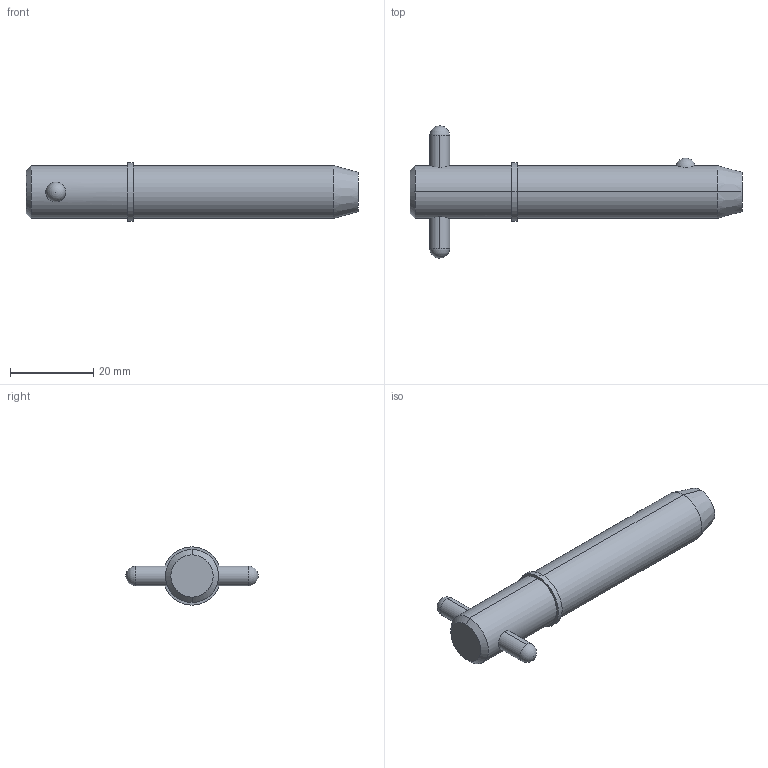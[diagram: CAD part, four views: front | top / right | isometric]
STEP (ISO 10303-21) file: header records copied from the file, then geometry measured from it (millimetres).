
FILE_DESCRIPTION (( 'STEP AP203' ), '1' );
FILE_NAME ('33018.W5015.step', '2024-11-19T17:14:41', ( '' ), ( '' ), 'SwSTEP 2.0', 'SolidWorks 2019', '' );
FILE_SCHEMA (( 'CONFIG_CONTROL_DESIGN' ));
Length unit declared in the file: millimetre
Products named in the file (3): Part2_33018.W5015; Part1_33018.W5015; 33018.W5015
Assembly tree (2 placements, depth 2):
  33018.W5015
    Part1_33018.W5015
    Part2_33018.W5015
Bounding box: 79.68 x 31.75 x 13.97 mm (x, y, z)
Volume: 10260.3 mm3; surface area: 4015.3 mm2
Topology: 2 solids, 2 shells, 22 faces, 47 edges, 30 vertices
Faces by surface type: cylinder 10, sphere 4, cone 4, plane 4
Entity records: 1043 total; most frequent: CARTESIAN_POINT 286, DIRECTION 110, ORIENTED_EDGE 82, AXIS2_PLACEMENT_3D 48, EDGE_CURVE 41, EDGE_LOOP 27, VERTEX_POINT 26, PERSON_AND_ORGANIZATION 26
